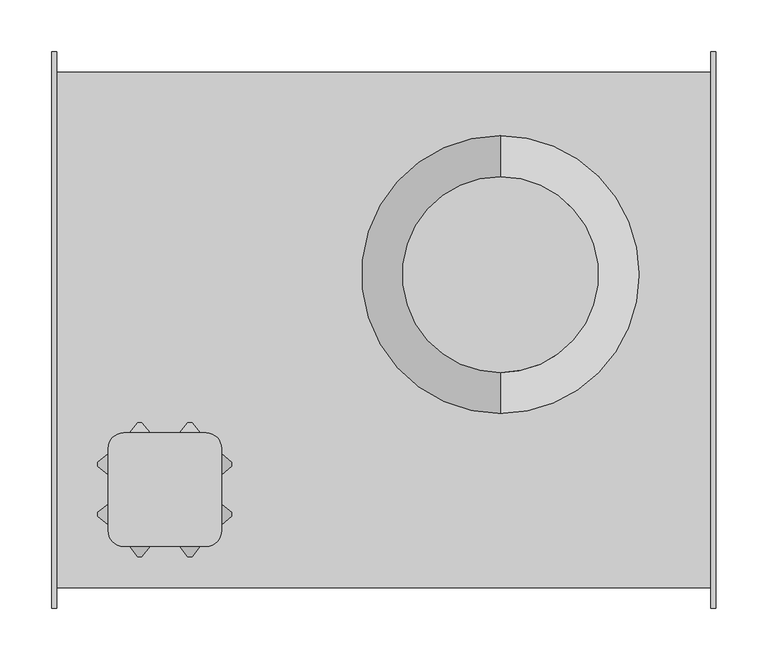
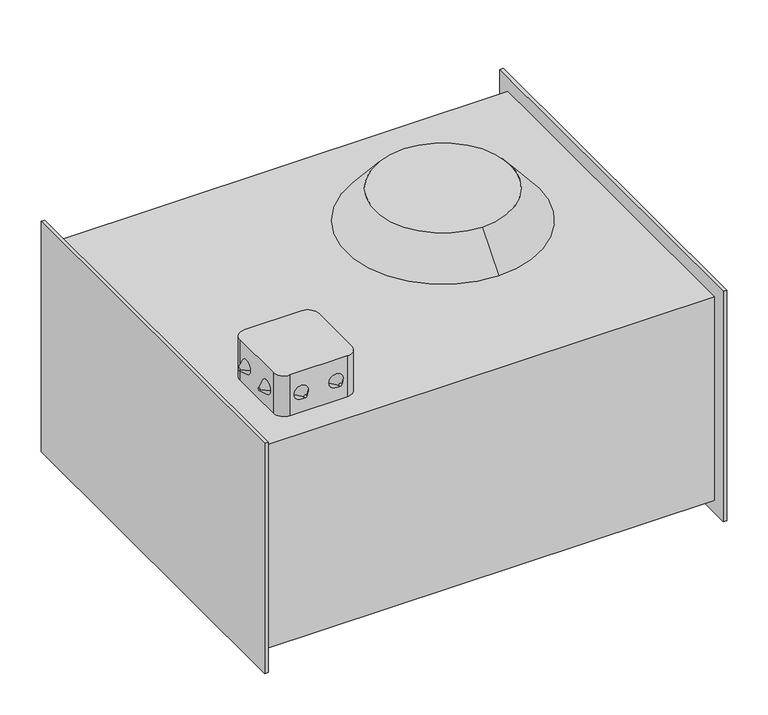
"""IFC4 building model written with IfcOpenShell, lengths in millimetres: proxy geometry, Прямоугольный канальный вентилятор серия ВКП Лиссант : KTEX 50-25-4 Rect.fan (ATEX)."""

import ifcopenshell
import ifcopenshell.guid

model = None  # the IFC model being written
_history = None  # IfcOwnerHistory: only IFC2X3 demands one
_inside = {}  # id of a spatial element -> (the spatial element, [elements in it])
_under = {}  # id of a project, library or spatial element -> (it, [spatial elements below it])
_declared = {}  # id of a project -> (the project, [libraries it declares])
_typed = {}  # id of a type object -> (the type object, [elements of that type])
_made_of = {}  # id of a material, layer set ... -> (it, [elements and type objects made of it])


def new_model(schema):
    """Start an empty IFC model of exactly this schema.

    Asked for "IFC4X3", IfcOpenShell would pick the latest addendum, in which some entities
    have other attributes; the version numbers below select the first issue.
    IFC2X3 requires an IfcOwnerHistory on every rooted entity: one is made here for all.
    """
    global model, _history
    if schema == "IFC4X3":
        model = ifcopenshell.file(schema_version=(4, 3, 0, 0))
    else:
        model = ifcopenshell.file(schema=schema)
    _inside.clear()
    _under.clear()
    _declared.clear()
    _typed.clear()
    _made_of.clear()
    _history = None
    if model.schema == "IFC2X3":
        org = make("IfcOrganization", Name="unknown")
        user = make(
            "IfcPersonAndOrganization",
            ThePerson=make("IfcPerson", FamilyName="unknown"),
            TheOrganization=org,
        )
        app = make(
            "IfcApplication",
            ApplicationDeveloper=org,
            Version="unknown",
            ApplicationFullName="unknown",
            ApplicationIdentifier="unknown",
        )
        _history = make(
            "IfcOwnerHistory",
            OwningUser=user,
            OwningApplication=app,
            ChangeAction="ADDED",
            CreationDate=0,
        )
    return model


def make(cls, **values):
    """One entity of the class cls with the attributes given. An attribute that is None is left unset."""
    return model.create_entity(
        cls, **{name: value for name, value in values.items() if value is not None}
    )


def rooted(cls, **values):
    """An entity with a GlobalId (a new one), such as an element, a storey or a relation."""
    return make(cls, GlobalId=ifcopenshell.guid.new(), OwnerHistory=_history, **values)


def si_unit(unit_type, name, prefix=None):
    """IfcSIUnit, for example si_unit("LENGTHUNIT", "METRE", prefix="MILLI")."""
    return make("IfcSIUnit", UnitType=unit_type, Prefix=prefix, Name=name)


def assignment(units):
    """IfcUnitAssignment: the units of a project."""
    return None if units is None else make("IfcUnitAssignment", Units=units)


def point(xyz):
    """IfcCartesianPoint."""
    return None if xyz is None else make("IfcCartesianPoint", Coordinates=xyz)


def direction(xyz):
    """IfcDirection."""
    return None if xyz is None else make("IfcDirection", DirectionRatios=xyz)


def frame(location, z_axis=None, x_axis=None):
    """IfcAxis2Placement3D, a coordinate frame: its origin and axes. An axis left out is left unset."""
    return make(
        "IfcAxis2Placement3D",
        Location=point(location),
        Axis=direction(z_axis),
        RefDirection=direction(x_axis),
    )


def frame_2d(location, x_axis=None):
    """IfcAxis2Placement2D, a coordinate frame in the plane: its origin and x axis."""
    return make(
        "IfcAxis2Placement2D", Location=point(location), RefDirection=direction(x_axis)
    )


def origin():
    """The frame at (0, 0, 0) with its axes left unset."""
    return frame((0.0, 0.0, 0.0))


def place(relative_to, where):
    """IfcLocalPlacement: puts the frame where relative to a parent placement (None: the world)."""
    return make(
        "IfcLocalPlacement", PlacementRelTo=relative_to, RelativePlacement=where
    )


def context(
    kind, dimensions, precision=None, world=None, true_north=None, identifier=None
):
    """IfcGeometricRepresentationContext, for example the 3D "Model" context."""
    return make(
        "IfcGeometricRepresentationContext",
        ContextIdentifier=identifier,
        ContextType=kind,
        CoordinateSpaceDimension=dimensions,
        Precision=precision,
        WorldCoordinateSystem=world,
        TrueNorth=true_north,
    )


def project(units=None, contexts=None):
    """IfcProject with its units and contexts."""
    return rooted(
        "IfcProject",
        Name="project",
        RepresentationContexts=contexts,
        UnitsInContext=assignment(units),
    )


def spatial(cls, under=None, at=None, **own):
    """A site, building, storey or space (cls), placed at a placement, below another one or the project."""
    s = rooted(cls, ObjectPlacement=at, **own)
    if under is not None:
        _under.setdefault(under.id(), (under, []))[1].append(s)
    return s


def polyline(points):
    """IfcPolyline through the points."""
    return make("IfcPolyline", Points=[point(p) for p in points])


def circle_curve(where, radius):
    """IfcCircle in the frame where."""
    return make("IfcCircle", Position=where, Radius=radius)


def trimmed(basis, trim1, trim2, sense, master):
    """IfcTrimmedCurve: the piece of a basis curve between two trims."""
    return make(
        "IfcTrimmedCurve",
        BasisCurve=basis,
        Trim1=trim1,
        Trim2=trim2,
        SenseAgreement=sense,
        MasterRepresentation=master,
    )


def segment(curve, same_sense, transition):
    """IfcCompositeCurveSegment."""
    return make(
        "IfcCompositeCurveSegment",
        Transition=transition,
        SameSense=same_sense,
        ParentCurve=curve,
    )


def composite_curve(segments, self_intersect=None):
    """IfcCompositeCurve: segments joined end to end."""
    return make("IfcCompositeCurve", Segments=segments, SelfIntersect=self_intersect)


def outline(outer, holes=None, kind="AREA"):
    """IfcArbitraryClosedProfileDef: a profile drawn as a closed curve; with holes, ...WithVoids."""
    if holes is None:
        return make("IfcArbitraryClosedProfileDef", ProfileType=kind, OuterCurve=outer)
    return make(
        "IfcArbitraryProfileDefWithVoids",
        ProfileType=kind,
        OuterCurve=outer,
        InnerCurves=holes,
    )


def extrude(swept, where, along, depth):
    """IfcExtrudedAreaSolid: the profile swept, set in the frame where, extruded along a direction by depth."""
    return make(
        "IfcExtrudedAreaSolid",
        SweptArea=swept,
        Position=where,
        ExtrudedDirection=direction(along),
        Depth=depth,
    )


def shape(context_of_items, identifier, shape_type, items):
    """IfcShapeRepresentation: the items that make up one representation, for example the "Body"."""
    return make(
        "IfcShapeRepresentation",
        ContextOfItems=context_of_items,
        RepresentationIdentifier=identifier,
        RepresentationType=shape_type,
        Items=items,
    )


def source(mapping_origin, context_of_items, identifier, shape_type, items):
    """IfcRepresentationMap: a shape defined once, which mapped items show again and again."""
    return make(
        "IfcRepresentationMap",
        MappingOrigin=mapping_origin,
        MappedRepresentation=shape(context_of_items, identifier, shape_type, items),
    )


def transform(
    local_origin,
    x_axis=None,
    y_axis=None,
    z_axis=None,
    scale=None,
    scale2=None,
    scale3=None,
    uniform=True,
):
    """IfcCartesianTransformationOperator3D, or its non-uniform kind. x_axis, y_axis, z_axis: its Axis1, 2, 3."""
    if uniform:
        return make(
            "IfcCartesianTransformationOperator3D",
            Axis1=direction(x_axis),
            Axis2=direction(y_axis),
            LocalOrigin=point(local_origin),
            Scale=scale,
            Axis3=direction(z_axis),
        )
    return make(
        "IfcCartesianTransformationOperator3DnonUniform",
        Axis1=direction(x_axis),
        Axis2=direction(y_axis),
        LocalOrigin=point(local_origin),
        Scale=scale,
        Axis3=direction(z_axis),
        Scale2=scale2,
        Scale3=scale3,
    )


def mapped(mapping_source, mapping_target):
    """IfcMappedItem: shows the shape of a source again, moved by a transform."""
    return make(
        "IfcMappedItem", MappingSource=mapping_source, MappingTarget=mapping_target
    )


def made_of(thing, what):
    """Note that an element or type object is made of a material, layer set ...; save() writes the relation."""
    if what is not None:
        _made_of.setdefault(what.id(), (what, []))[1].append(thing)
    return thing


def element(
    cls,
    number,
    at=None,
    inside=None,
    cuts=None,
    type_object=None,
    material=None,
    context=None,
    identifier="Body",
    shape_type=None,
    held_by="IfcProductDefinitionShape",
    body=None,
    shapes=None,
    **own,
):
    """One element of the class cls, such as IfcWall. Its Tag is "e" and its number.

    at: its placement. inside: the storey or other place that contains it. cuts: it is an
    opening in that element (IfcRelVoidsElement). A single representation is given by context,
    identifier, shape_type and body (its items); several are given by shapes. held_by: the class
    of the entity that holds the representations. save() writes the other relations.
    """
    e = rooted(cls, Tag="e%d" % number, ObjectPlacement=at, **own)
    if body is not None:
        shapes = [shape(context, identifier, shape_type, body)]
    if shapes is not None:
        e.Representation = make(held_by, Representations=shapes)
    if inside is not None:
        _inside.setdefault(inside.id(), (inside, []))[1].append(e)
    if cuts is not None:
        rooted(
            "IfcRelVoidsElement", RelatingBuildingElement=cuts, RelatedOpeningElement=e
        )
    if type_object is not None:
        _typed.setdefault(type_object.id(), (type_object, []))[1].append(e)
    return made_of(e, material)


def aggregate(whole, parts):
    """IfcRelAggregates: a whole, such as a stair, and the parts it consists of."""
    return rooted("IfcRelAggregates", RelatingObject=whole, RelatedObjects=parts)


def save(model, path):
    """Write the relations noted so far, then the file.

    IfcRelAggregates (storeys below a building ...), IfcRelContainedInSpatialStructure (elements
    in a storey), IfcRelDefinesByType, IfcRelAssociatesMaterial and IfcRelDeclares: one each for
    every whole, place, type object, material and project.
    """
    for whole, parts in _under.values():
        aggregate(whole, parts)
    for where, things in _inside.values():
        rooted(
            "IfcRelContainedInSpatialStructure",
            RelatedElements=things,
            RelatingStructure=where,
        )
    for kind, things in _typed.values():
        rooted("IfcRelDefinesByType", RelatedObjects=things, RelatingType=kind)
    for what, things in _made_of.values():
        rooted("IfcRelAssociatesMaterial", RelatedObjects=things, RelatingMaterial=what)
    for by, libraries in _declared.values():
        rooted("IfcRelDeclares", RelatingContext=by, RelatedDefinitions=libraries)
    model.write(path)


def plane_surface(at):
    """IfcPlane: the flat surface through the origin of the frame at, square to its z axis."""
    return make("IfcPlane", Position=at)


def revolved_surface(curve, axis_point, axis_direction):
    """IfcSurfaceOfRevolution: the curve turned about the line through axis_point along axis_direction."""
    return make(
        "IfcSurfaceOfRevolution",
        SweptCurve=make("IfcArbitraryOpenProfileDef", ProfileType="CURVE", Curve=curve),
        AxisPosition=make("IfcAxis1Placement", Location=point(axis_point), Axis=direction(axis_direction)),
    )


def advanced_brep(points, edges, surfaces, faces):
    """IfcAdvancedBrep: a solid bounded by faces that lie on surfaces and meet in shared edges.

    An edge is (start, end): straight between two places in points (the first is 0);
    or (start, end, curve); or (start, end, curve, False) where it runs against its curve.
    A face is (place in surfaces, loops), or (place, loops, False) where it looks against
    its surface's normal. A loop lists edges by number (the first is 1), with a minus sign
    where the edge is run from its end to its start. The first loop is the outer one.
    """
    corners = [point(p) for p in points]
    vertices = [make("IfcVertexPoint", VertexGeometry=c) for c in corners]
    made = []
    for start, end, *more in edges:
        made.append(
            make(
                "IfcEdgeCurve",
                EdgeStart=vertices[start],
                EdgeEnd=vertices[end],
                EdgeGeometry=more[0] if more else make("IfcPolyline", Points=[corners[start], corners[end]]),
                SameSense=more[1] if len(more) > 1 else True,
            )
        )
    hull = []
    for where, loops, *sense in faces:
        bounds = []
        for j, loop in enumerate(loops):
            ring = [make("IfcOrientedEdge", EdgeElement=made[abs(k) - 1], Orientation=k > 0) for k in loop]
            bounds.append(
                make(
                    "IfcFaceOuterBound" if j == 0 else "IfcFaceBound",
                    Bound=make("IfcEdgeLoop", EdgeList=ring),
                    Orientation=True,
                )
            )
        hull.append(make("IfcAdvancedFace", Bounds=bounds, FaceSurface=surfaces[where], SameSense=sense[0] if sense else True))
    return make("IfcAdvancedBrep", Outer=make("IfcClosedShell", CfsFaces=hull))


def mechanical_equipment_77f2c57a(model_context):
    return source(origin(), model_context, "Body", "SolidModel", [
        advanced_brep(
        [(-147.5, -128.2907391, 178.9311792), (-147.5, -132.2907391, 178.9311792), (-157.5, -120.2907391, 178.9311792), (-157.5, -140.2907391, 178.9311792)],
        [
            (0, 1, circle_curve(frame((-147.5, -130.2907391, 178.9311792), z_axis=(1.0, 0.0, 0.0), x_axis=(0.0, 1.0, 0.0)), 2.0)),
            (1, 0, circle_curve(frame((-147.5, -130.2907391, 178.9311792), z_axis=(1.0, 0.0, 0.0), x_axis=(0.0, -1.0, 0.0)), 2.0)),
            (2, 3, circle_curve(frame((-157.5, -130.2907391, 178.9311792), z_axis=(-1.0, 0.0, 0.0), x_axis=(0.0, -1.0, 0.0)), 10.0)),
            (3, 2, circle_curve(frame((-157.5, -130.2907391, 178.9311792), z_axis=(-1.0, 0.0, 0.0), x_axis=(0.0, 1.0, 0.0)), 10.0)),
            (2, 0),
            (1, 3),
        ],
        [
            plane_surface(frame((-147.5, -130.2907391, 178.9311792), z_axis=(1.0, 0.0, 0.0), x_axis=(0.0, 0.0, 1.0))),
            plane_surface(frame((-157.5, -130.2907391, 178.9311792), z_axis=(-1.0, 0.0, 0.0), x_axis=(0.0, 0.0, 1.0))),
            revolved_surface(polyline([(-147.5, -132.2907391, 178.9311792), (-157.5, -140.2907391, 178.9311792)]), (-145.0, -130.2907391, 178.9311792), (-1.0, 0.0, 0.0)),
            revolved_surface(polyline([(-147.5, -128.2907391, 178.9311792), (-157.5, -120.2907391, 178.9311792)]), (-145.0, -130.2907391, 178.9311792), (-1.0, 0.0, 0.0)),
        ],
        [
            (0, [[1, 2]]),
            (1, [[3, 4]]),
            (2, [[-3, 5, -2, 6]]),
            (3, [[-4, -6, -1, -5]]),
        ],
    ),
        advanced_brep(
        [(-147.5, -180.9468836, 178.9311792), (-147.5, -176.9468836, 178.9311792), (-157.5, -188.9468836, 178.9311792), (-157.5, -168.9468836, 178.9311792)],
        [
            (0, 1, circle_curve(frame((-147.5, -178.9468836, 178.9311792), z_axis=(1.0, 0.0, 0.0), x_axis=(0.0, -1.0, 0.0)), 2.0)),
            (1, 0, circle_curve(frame((-147.5, -178.9468836, 178.9311792), z_axis=(1.0, 0.0, 0.0), x_axis=(0.0, 1.0, 0.0)), 2.0)),
            (2, 3, circle_curve(frame((-157.5, -178.9468836, 178.9311792), z_axis=(-1.0, 0.0, 0.0), x_axis=(0.0, 1.0, 0.0)), 10.0)),
            (3, 2, circle_curve(frame((-157.5, -178.9468836, 178.9311792), z_axis=(-1.0, 0.0, 0.0), x_axis=(0.0, -1.0, 0.0)), 10.0)),
            (3, 1),
            (0, 2),
        ],
        [
            plane_surface(frame((-147.5, -178.9468836, 178.9311792), z_axis=(1.0, 0.0, 0.0), x_axis=(0.0, 0.0, -1.0))),
            plane_surface(frame((-157.5, -178.9468836, 178.9311792), z_axis=(-1.0, 0.0, 0.0), x_axis=(0.0, 0.0, -1.0))),
            revolved_surface(polyline([(-147.5, -180.9468836, 178.9311792), (-157.5, -188.9468836, 178.9311792)]), (-145.0, -178.9468836, 178.9311792), (-1.0, 0.0, 0.0)),
            revolved_surface(polyline([(-147.5, -176.9468836, 178.9311792), (-157.5, -168.9468836, 178.9311792)]), (-145.0, -178.9468836, 178.9311792), (-1.0, 0.0, 0.0)),
        ],
        [
            (0, [[1, 2]]),
            (1, [[3, 4]]),
            (2, [[-4, 5, -1, 6]]),
            (3, [[-3, -6, -2, -5]]),
        ],
    ),
        advanced_brep(
        [(-277.5, -128.2907391, 178.9311792), (-277.5, -132.2907391, 178.9311792), (-267.5, -120.2907391, 178.9311792), (-267.5, -140.2907391, 178.9311792)],
        [
            (0, 1, circle_curve(frame((-277.5, -130.2907391, 178.9311792), z_axis=(-1.0, 0.0, 0.0), x_axis=(0.0, 1.0, 0.0)), 2.0)),
            (1, 0, circle_curve(frame((-277.5, -130.2907391, 178.9311792), z_axis=(-1.0, 0.0, 0.0), x_axis=(0.0, -1.0, 0.0)), 2.0)),
            (2, 3, circle_curve(frame((-267.5, -130.2907391, 178.9311792), z_axis=(1.0, 0.0, 0.0), x_axis=(0.0, -1.0, 0.0)), 10.0)),
            (3, 2, circle_curve(frame((-267.5, -130.2907391, 178.9311792), z_axis=(1.0, 0.0, 0.0), x_axis=(0.0, 1.0, 0.0)), 10.0)),
            (3, 1),
            (0, 2),
        ],
        [
            plane_surface(frame((-277.5, -130.2907391, 178.9311792), z_axis=(-1.0, 0.0, 0.0), x_axis=(0.0, 0.0, -1.0))),
            plane_surface(frame((-267.5, -130.2907391, 178.9311792), z_axis=(1.0, 0.0, 0.0), x_axis=(0.0, 0.0, -1.0))),
            revolved_surface(polyline([(-277.5, -128.2907391, 178.9311792), (-267.5, -120.2907391, 178.9311792)]), (-280.0, -130.2907391, 178.9311792), (1.0, 0.0, 0.0)),
            revolved_surface(polyline([(-277.5, -132.2907391, 178.9311792), (-267.5, -140.2907391, 178.9311792)]), (-280.0, -130.2907391, 178.9311792), (1.0, 0.0, 0.0)),
        ],
        [
            (0, [[1, 2]]),
            (1, [[3, 4]]),
            (2, [[-4, 5, -1, 6]]),
            (3, [[-3, -6, -2, -5]]),
        ],
    ),
        advanced_brep(
        [(-277.5, -180.9468836, 178.9311792), (-277.5, -176.9468836, 178.9311792), (-267.5, -188.9468836, 178.9311792), (-267.5, -168.9468836, 178.9311792)],
        [
            (0, 1, circle_curve(frame((-277.5, -178.9468836, 178.9311792), z_axis=(-1.0, 0.0, 0.0), x_axis=(0.0, -1.0, 0.0)), 2.0)),
            (1, 0, circle_curve(frame((-277.5, -178.9468836, 178.9311792), z_axis=(-1.0, 0.0, 0.0), x_axis=(0.0, 1.0, 0.0)), 2.0)),
            (2, 3, circle_curve(frame((-267.5, -178.9468836, 178.9311792), z_axis=(1.0, 0.0, 0.0), x_axis=(0.0, 1.0, 0.0)), 10.0)),
            (3, 2, circle_curve(frame((-267.5, -178.9468836, 178.9311792), z_axis=(1.0, 0.0, 0.0), x_axis=(0.0, -1.0, 0.0)), 10.0)),
            (2, 0),
            (1, 3),
        ],
        [
            plane_surface(frame((-277.5, -178.9468836, 178.9311792), z_axis=(-1.0, 0.0, 0.0), x_axis=(0.0, 0.0, 1.0))),
            plane_surface(frame((-267.5, -178.9468836, 178.9311792), z_axis=(1.0, 0.0, 0.0), x_axis=(0.0, 0.0, 1.0))),
            revolved_surface(polyline([(-277.5, -176.9468836, 178.9311792), (-267.5, -168.9468836, 178.9311792)]), (-280.0, -178.9468836, 178.9311792), (1.0, 0.0, 0.0)),
            revolved_surface(polyline([(-277.5, -180.9468836, 178.9311792), (-267.5, -188.9468836, 178.9311792)]), (-280.0, -178.9468836, 178.9311792), (1.0, 0.0, 0.0)),
        ],
        [
            (0, [[1, 2]]),
            (1, [[3, 4]]),
            (2, [[-3, 5, -2, 6]]),
            (3, [[-4, -6, -1, -5]]),
        ],
    ),
        advanced_brep(
        [(-186.1719278, -90.0, 178.9311792), (-190.1719278, -90.0, 178.9311792), (-178.1719278, -100.0, 178.9311792), (-198.1719278, -100.0, 178.9311792)],
        [
            (0, 1, circle_curve(frame((-188.1719278, -90.0, 178.9311792), z_axis=(0.0, 1.0, 0.0), x_axis=(1.0, 0.0, 0.0)), 2.0)),
            (1, 0, circle_curve(frame((-188.1719278, -90.0, 178.9311792), z_axis=(0.0, 1.0, 0.0), x_axis=(-1.0, 0.0, 0.0)), 2.0)),
            (2, 3, circle_curve(frame((-188.1719278, -100.0, 178.9311792), z_axis=(0.0, -1.0, 0.0), x_axis=(-1.0, 0.0, 0.0)), 10.0)),
            (3, 2, circle_curve(frame((-188.1719278, -100.0, 178.9311792), z_axis=(0.0, -1.0, 0.0), x_axis=(1.0, 0.0, 0.0)), 10.0)),
            (3, 1),
            (0, 2),
        ],
        [
            plane_surface(frame((-188.1719278, -90.0, 178.9311792), z_axis=(0.0, 1.0, 0.0), x_axis=(0.0, 0.0, -1.0))),
            plane_surface(frame((-188.1719278, -100.0, 178.9311792), z_axis=(0.0, -1.0, 0.0), x_axis=(0.0, 0.0, -1.0))),
            revolved_surface(polyline([(-186.1719278, -90.0, 178.9311792), (-178.1719278, -100.0, 178.9311792)]), (-188.1719278, -87.5, 178.9311792), (0.0, -1.0, 0.0)),
            revolved_surface(polyline([(-190.1719278, -90.0, 178.9311792), (-198.1719278, -100.0, 178.9311792)]), (-188.1719278, -87.5, 178.9311792), (0.0, -1.0, 0.0)),
        ],
        [
            (0, [[1, 2]]),
            (1, [[3, 4]]),
            (2, [[-4, 5, -1, 6]]),
            (3, [[-3, -6, -2, -5]]),
        ],
    ),
        advanced_brep(
        [(-238.8280722, -90.0, 178.9311792), (-234.8280722, -90.0, 178.9311792), (-246.8280722, -100.0, 178.9311792), (-226.8280722, -100.0, 178.9311792)],
        [
            (0, 1, circle_curve(frame((-236.8280722, -90.0, 178.9311792), z_axis=(0.0, 1.0, 0.0), x_axis=(-1.0, 0.0, 0.0)), 2.0)),
            (1, 0, circle_curve(frame((-236.8280722, -90.0, 178.9311792), z_axis=(0.0, 1.0, 0.0), x_axis=(1.0, 0.0, 0.0)), 2.0)),
            (2, 3, circle_curve(frame((-236.8280722, -100.0, 178.9311792), z_axis=(0.0, -1.0, 0.0), x_axis=(1.0, 0.0, 0.0)), 10.0)),
            (3, 2, circle_curve(frame((-236.8280722, -100.0, 178.9311792), z_axis=(0.0, -1.0, 0.0), x_axis=(-1.0, 0.0, 0.0)), 10.0)),
            (2, 0),
            (1, 3),
        ],
        [
            plane_surface(frame((-236.8280722, -90.0, 178.9311792), z_axis=(0.0, 1.0, 0.0), x_axis=(0.0, 0.0, 1.0))),
            plane_surface(frame((-236.8280722, -100.0, 178.9311792), z_axis=(0.0, -1.0, 0.0), x_axis=(0.0, 0.0, 1.0))),
            revolved_surface(polyline([(-234.8280722, -90.0, 178.9311792), (-226.8280722, -100.0, 178.9311792)]), (-236.8280722, -87.5, 178.9311792), (0.0, -1.0, 0.0)),
            revolved_surface(polyline([(-238.8280722, -90.0, 178.9311792), (-246.8280722, -100.0, 178.9311792)]), (-236.8280722, -87.5, 178.9311792), (0.0, -1.0, 0.0)),
        ],
        [
            (0, [[1, 2]]),
            (1, [[3, 4]]),
            (2, [[-3, 5, -2, 6]]),
            (3, [[-4, -6, -1, -5]]),
        ],
    ),
        advanced_brep(
        [(-186.1719278, -220.0, 178.9311792), (-190.1719278, -220.0, 178.9311792), (-178.1719278, -210.0, 178.9311792), (-198.1719278, -210.0, 178.9311792)],
        [
            (0, 1, circle_curve(frame((-188.1719278, -220.0, 178.9311792), z_axis=(0.0, -1.0, 0.0), x_axis=(1.0, 0.0, 0.0)), 2.0)),
            (1, 0, circle_curve(frame((-188.1719278, -220.0, 178.9311792), z_axis=(0.0, -1.0, 0.0), x_axis=(-1.0, 0.0, 0.0)), 2.0)),
            (2, 3, circle_curve(frame((-188.1719278, -210.0, 178.9311792), z_axis=(0.0, 1.0, 0.0), x_axis=(-1.0, 0.0, 0.0)), 10.0)),
            (3, 2, circle_curve(frame((-188.1719278, -210.0, 178.9311792), z_axis=(0.0, 1.0, 0.0), x_axis=(1.0, 0.0, 0.0)), 10.0)),
            (2, 0),
            (1, 3),
        ],
        [
            plane_surface(frame((-188.1719278, -220.0, 178.9311792), z_axis=(0.0, -1.0, 0.0), x_axis=(0.0, 0.0, 1.0))),
            plane_surface(frame((-188.1719278, -210.0, 178.9311792), z_axis=(0.0, 1.0, 0.0), x_axis=(0.0, 0.0, 1.0))),
            revolved_surface(polyline([(-190.1719278, -220.0, 178.9311792), (-198.1719278, -210.0, 178.9311792)]), (-188.1719278, -222.5, 178.9311792), (0.0, 1.0, 0.0)),
            revolved_surface(polyline([(-186.1719278, -220.0, 178.9311792), (-178.1719278, -210.0, 178.9311792)]), (-188.1719278, -222.5, 178.9311792), (0.0, 1.0, 0.0)),
        ],
        [
            (0, [[1, 2]]),
            (1, [[3, 4]]),
            (2, [[-3, 5, -2, 6]]),
            (3, [[-4, -6, -1, -5]]),
        ],
    ),
        advanced_brep(
        [(-238.8280722, -220.0, 178.9311792), (-234.8280722, -220.0, 178.9311792), (-246.8280722, -210.0, 178.9311792), (-226.8280722, -210.0, 178.9311792)],
        [
            (0, 1, circle_curve(frame((-236.8280722, -220.0, 178.9311792), z_axis=(0.0, -1.0, 0.0), x_axis=(-1.0, 0.0, 0.0)), 2.0)),
            (1, 0, circle_curve(frame((-236.8280722, -220.0, 178.9311792), z_axis=(0.0, -1.0, 0.0), x_axis=(1.0, 0.0, 0.0)), 2.0)),
            (2, 3, circle_curve(frame((-236.8280722, -210.0, 178.9311792), z_axis=(0.0, 1.0, 0.0), x_axis=(1.0, 0.0, 0.0)), 10.0)),
            (3, 2, circle_curve(frame((-236.8280722, -210.0, 178.9311792), z_axis=(0.0, 1.0, 0.0), x_axis=(-1.0, 0.0, 0.0)), 10.0)),
            (3, 1),
            (0, 2),
        ],
        [
            plane_surface(frame((-236.8280722, -220.0, 178.9311792), z_axis=(0.0, -1.0, 0.0), x_axis=(0.0, 0.0, -1.0))),
            plane_surface(frame((-236.8280722, -210.0, 178.9311792), z_axis=(0.0, 1.0, 0.0), x_axis=(0.0, 0.0, -1.0))),
            revolved_surface(polyline([(-238.8280722, -220.0, 178.9311792), (-246.8280722, -210.0, 178.9311792)]), (-236.8280722, -222.5, 178.9311792), (0.0, 1.0, 0.0)),
            revolved_surface(polyline([(-234.8280722, -220.0, 178.9311792), (-226.8280722, -210.0, 178.9311792)]), (-236.8280722, -222.5, 178.9311792), (0.0, 1.0, 0.0)),
        ],
        [
            (0, [[1, 2]]),
            (1, [[3, 4]]),
            (2, [[-4, 5, -1, 6]]),
            (3, [[-3, -6, -2, -5]]),
        ],
    ),
        extrude(outline(composite_curve([segment(trimmed(circle_curve(frame_2d((-172.5, -115.0)), 15.0), [point((-172.5, -100.0))], [point((-157.5, -115.0))], False, "CARTESIAN"), True, "CONTINUOUS"), segment(polyline([(-157.5, -115.0), (-157.5, -195.0)]), True, "CONTINUOUS"), segment(trimmed(circle_curve(frame_2d((-172.5, -195.0)), 15.0), [point((-157.5, -195.0))], [point((-172.5, -210.0))], False, "CARTESIAN"), True, "CONTINUOUS"), segment(polyline([(-172.5, -210.0), (-252.5, -210.0)]), True, "CONTINUOUS"), segment(trimmed(circle_curve(frame_2d((-252.5, -195.0)), 15.0), [point((-252.5, -210.0))], [point((-267.5, -195.0))], False, "CARTESIAN"), True, "CONTINUOUS"), segment(polyline([(-267.5, -195.0), (-267.5, -115.0)]), True, "CONTINUOUS"), segment(trimmed(circle_curve(frame_2d((-252.5, -115.0)), 15.0), [point((-267.5, -115.0))], [point((-252.5, -100.0))], False, "CARTESIAN"), True, "CONTINUOUS"), segment(polyline([(-252.5, -100.0), (-172.5, -100.0)]), True, "CONTINUOUS")], self_intersect=False)), frame((0.0, 0.0, 150.0), z_axis=(0.0, 0.0, 1.0), x_axis=(1.0, 0.0, 0.0)), (0.0, 0.0, 1.0), 60.0),
        extrude(outline(polyline([(322.5, 270.0), (322.5, -270.0), (317.5, -270.0), (317.5, 270.0), (322.5, 270.0)])), frame((0.0, 0.0, -170.0), z_axis=(0.0, 0.0, 1.0), x_axis=(1.0, 0.0, 0.0)), (0.0, 0.0, 1.0), 340.0),
        extrude(outline(polyline([(-317.5, 270.0), (-317.5, -270.0), (-322.5, -270.0), (-322.5, 270.0), (-317.5, 270.0)])), frame((0.0, 0.0, -170.0), z_axis=(0.0, 0.0, 1.0), x_axis=(1.0, 0.0, 0.0)), (0.0, 0.0, 1.0), 340.0),
        extrude(outline(polyline([(317.5, 250.0), (317.5, -250.0), (-317.5, -250.0), (-317.5, 250.0), (317.5, 250.0)])), frame((0.0, 0.0, -150.0), z_axis=(0.0, 0.0, 1.0), x_axis=(1.0, 0.0, 0.0)), (0.0, 0.0, 1.0), 300.0),
        advanced_brep(
        [(113.2243383, 148.6370331, 198.0), (113.2243383, -41.3629669, 198.0), (113.2243383, 188.6370331, 150.0), (113.2243383, -81.3629669, 150.0)],
        [
            (0, 1, circle_curve(frame((113.2243383, 53.6370331, 198.0), z_axis=(0.0, 0.0, 1.0), x_axis=(0.0, 1.0, 0.0)), 95.0)),
            (1, 0, circle_curve(frame((113.2243383, 53.6370331, 198.0), z_axis=(0.0, 0.0, 1.0), x_axis=(0.0, -1.0, 0.0)), 95.0)),
            (2, 3, circle_curve(frame((113.2243383, 53.6370331, 150.0), z_axis=(0.0, 0.0, -1.0), x_axis=(0.0, -1.0, 0.0)), 135.0)),
            (3, 2, circle_curve(frame((113.2243383, 53.6370331, 150.0), z_axis=(0.0, 0.0, -1.0), x_axis=(0.0, 1.0, 0.0)), 135.0)),
            (3, 1),
            (0, 2),
        ],
        [
            plane_surface(frame((113.2243383, 53.6370331, 198.0), z_axis=(0.0, 0.0, 1.0), x_axis=(-1.0, 0.0, 0.0))),
            plane_surface(frame((113.2243383, 53.6370331, 150.0), z_axis=(0.0, 0.0, -1.0), x_axis=(-1.0, 0.0, 0.0))),
            revolved_surface(polyline([(113.2243383, 148.6370331, 198.0), (113.2243383, 188.6370331, 150.0)]), (113.2243383, 53.6370331, 312.0), (0.0, 0.0, -1.0)),
            revolved_surface(polyline([(113.2243383, -41.3629669, 198.0), (113.2243383, -81.3629669, 150.0)]), (113.2243383, 53.6370331, 312.0), (0.0, 0.0, -1.0)),
        ],
        [
            (0, [[1, 2]]),
            (1, [[3, 4]]),
            (2, [[-4, 5, -1, 6]]),
            (3, [[-3, -6, -2, -5]]),
        ],
    ),
    ])


if __name__ == "__main__":
    model = new_model("IFC4")
    model_context = context("Model", 3, world=origin())
    ifc_project = project(units=[si_unit("LENGTHUNIT", "METRE", prefix="MILLI")], contexts=[model_context])
    site = spatial("IfcSite", under=ifc_project)
    building = spatial("IfcBuilding", under=site)
    placement = place(None, origin())
    mechanical_equipment_shape = mechanical_equipment_77f2c57a(model_context)
    element("IfcBuildingElementProxy", 1, Name="Прямоугольный канальный вентилятор серия ВКП Лиссант : KTEX 50-25-4 Rect.fan (ATEX)", ObjectType="Прямоугольный канальный вентилятор серия ВКП Лиссант : KTEX 50-25-4 Rect.fan (ATEX)", at=placement, inside=building, context=model_context, shape_type="MappedRepresentation", body=[
        mapped(mechanical_equipment_shape, transform((0.0, 0.0, 0.0), x_axis=(1.0, 0.0, 0.0), y_axis=(0.0, 1.0, 0.0), z_axis=(0.0, 0.0, 1.0))),
    ])
    save(model, "model.ifc")
